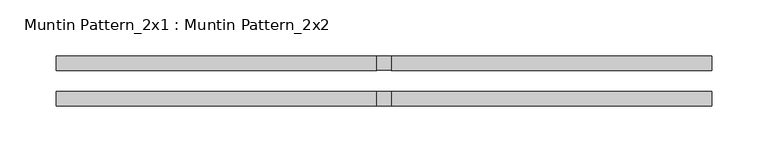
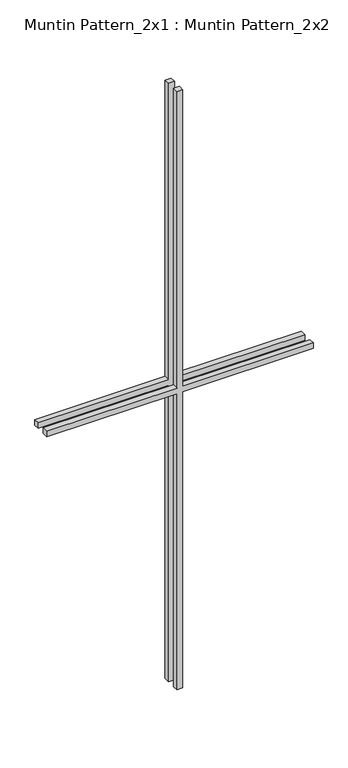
"""IFC4 building model written with IfcOpenShell, lengths in millimetres: proxy geometry, Muntin Pattern_2x1 : Muntin Pattern_2x2."""

from ifc_helpers import new_model, si_unit, frame, origin, place, context, project, spatial, polyline, outline, extrude, source, transform, mapped, element, save


def muntin_pattern_2x1_muntin_pattern_2x2_a6c43cb1(model_context):
    return source(origin(), model_context, "Body", "SweptSolid", [
        extrude(outline(polyline([(698.5, -6.35), (698.5, -292.1), (685.8, -292.1), (685.8, -6.35), (0.0, -6.35), (0.0, 6.35), (685.8, 6.35), (685.8, 292.1), (698.5, 292.1), (698.5, 6.35), (1384.3, 6.35), (1384.3, -6.35), (698.5, -6.35)])), frame((0.0, -22.225, 0.0), z_axis=(0.0, 1.0, 0.0), x_axis=(0.0, 0.0, 1.0)), (0.0, 0.0, 1.0), 12.7),
        extrude(outline(polyline([(698.5, -6.35), (698.5, -292.1), (685.8, -292.1), (685.8, -6.35), (0.0, -6.35), (0.0, 6.35), (685.8, 6.35), (685.8, 292.1), (698.5, 292.1), (698.5, 6.35), (1384.3, 6.35), (1384.3, -6.35), (698.5, -6.35)])), frame((0.0, 9.525, 0.0), z_axis=(0.0, 1.0, 0.0), x_axis=(0.0, 0.0, 1.0)), (0.0, 0.0, 1.0), 12.7),
    ])


if __name__ == "__main__":
    model = new_model("IFC4")
    model_context = context("Model", 3, world=origin())
    ifc_project = project(units=[si_unit("LENGTHUNIT", "METRE", prefix="MILLI")], contexts=[model_context])
    site = spatial("IfcSite", under=ifc_project)
    building = spatial("IfcBuilding", under=site)
    placement = place(None, origin())
    muntin_pattern_2x1_muntin_pattern_2x2_shape = muntin_pattern_2x1_muntin_pattern_2x2_a6c43cb1(model_context)
    element("IfcBuildingElementProxy", 1, Name="Muntin Pattern_2x1 : Muntin Pattern_2x2", ObjectType="Muntin Pattern_2x1 : Muntin Pattern_2x2", at=placement, inside=building, context=model_context, shape_type="MappedRepresentation", body=[
        mapped(muntin_pattern_2x1_muntin_pattern_2x2_shape, transform((0.0, 0.0, 0.0), x_axis=(1.0, 0.0, 0.0), y_axis=(0.0, 1.0, 0.0), z_axis=(0.0, 0.0, 1.0))),
    ])
    save(model, "model.ifc")
